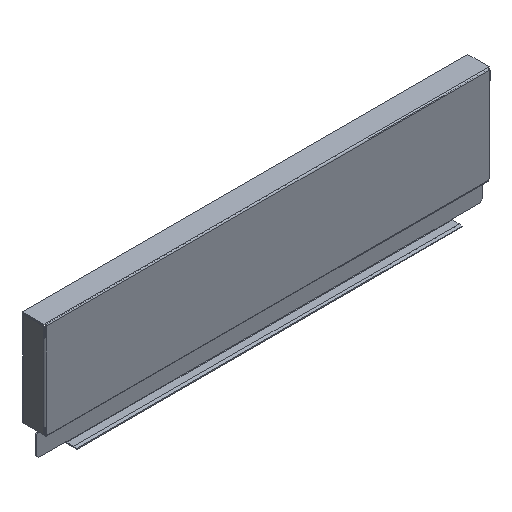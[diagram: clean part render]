
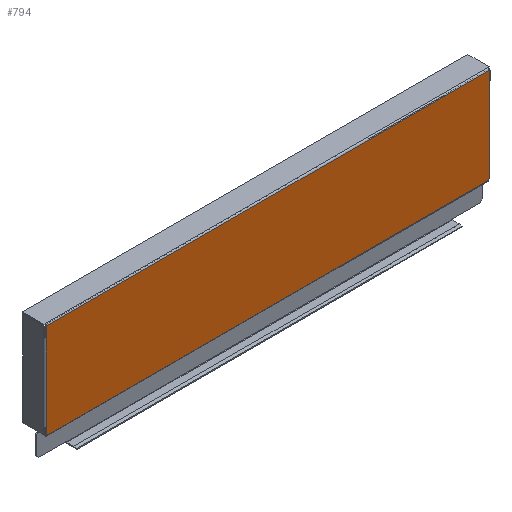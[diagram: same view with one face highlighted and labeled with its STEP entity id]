
A CAD part, isometric view. The second image highlights one B-rep face of the part: STEP entity #794.
In plain terms, the highlighted planar face has unit normal (0, -1, 0).
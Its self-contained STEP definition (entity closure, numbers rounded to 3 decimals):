
#77 = VERTEX_POINT ( 'NONE', #477 ) ;
#131 = VERTEX_POINT ( 'NONE', #466 ) ;
#140 = VERTEX_POINT ( 'NONE', #463 ) ;
#204 = DIRECTION ( 'NONE',  ( 0., 0., -1. ) ) ;
#222 = VERTEX_POINT ( 'NONE', #438 ) ;
#230 = VERTEX_POINT ( 'NONE', #434 ) ;
#239 = CARTESIAN_POINT ( 'NONE',  ( -154., -6., 101.385 ) ) ;
#244 = DIRECTION ( 'NONE',  ( 1., 0., 0. ) ) ;
#277 = VERTEX_POINT ( 'NONE', #419 ) ;
#283 = VERTEX_POINT ( 'NONE', #417 ) ;
#287 = CARTESIAN_POINT ( 'NONE',  ( -155., -6., 83. ) ) ;
#291 = VERTEX_POINT ( 'NONE', #415 ) ;
#297 = VERTEX_POINT ( 'NONE', #413 ) ;
#299 = DIRECTION ( 'NONE',  ( 0., 0., -1. ) ) ;
#313 = CARTESIAN_POINT ( 'NONE',  ( 154., -6., 101.385 ) ) ;
#326 = DIRECTION ( 'NONE',  ( 0., 0., -1. ) ) ;
#371 = CARTESIAN_POINT ( 'NONE',  ( 154., -6., 101.385 ) ) ;
#392 = CARTESIAN_POINT ( 'NONE',  ( -153.5, -6., 17. ) ) ;
#396 = DIRECTION ( 'NONE',  ( 1., 0., 0. ) ) ;
#399 = CARTESIAN_POINT ( 'NONE',  ( 153.5, -6., 17.5 ) ) ;
#413 = CARTESIAN_POINT ( 'NONE',  ( -154., -6., 17.5 ) ) ;
#415 = CARTESIAN_POINT ( 'NONE',  ( 154., -6., 82.5 ) ) ;
#417 = CARTESIAN_POINT ( 'NONE',  ( 154., -6., 83. ) ) ;
#419 = CARTESIAN_POINT ( 'NONE',  ( 153.5, -6., 17.5 ) ) ;
#431 = DIRECTION ( 'NONE',  ( 0., 0., 1. ) ) ;
#434 = CARTESIAN_POINT ( 'NONE',  ( -153.5, -6., 17.5 ) ) ;
#435 = CARTESIAN_POINT ( 'NONE',  ( 153.5, -6., 15.3 ) ) ;
#438 = CARTESIAN_POINT ( 'NONE',  ( -154., -6., 83. ) ) ;
#437 = DIRECTION ( 'NONE',  ( 1., 0., 0. ) ) ;
#440 = CARTESIAN_POINT ( 'NONE',  ( -155., -6., 17. ) ) ;
#443 = DIRECTION ( 'NONE',  ( 0., 0., -1. ) ) ;
#446 = CARTESIAN_POINT ( 'NONE',  ( -153.5, -6., 17.5 ) ) ;
#454 = DIRECTION ( 'NONE',  ( 1., 0., 0. ) ) ;
#457 = CARTESIAN_POINT ( 'NONE',  ( -155., -6., 17.5 ) ) ;
#461 = DIRECTION ( 'NONE',  ( 0., 0., -1. ) ) ;
#463 = CARTESIAN_POINT ( 'NONE',  ( -154., -6., 82.5 ) ) ;
#464 = CARTESIAN_POINT ( 'NONE',  ( -154., -6., 101.385 ) ) ;
#466 = CARTESIAN_POINT ( 'NONE',  ( 154., -6., 17.5 ) ) ;
#477 = CARTESIAN_POINT ( 'NONE',  ( 153.5, -6., 17. ) ) ;
#511 = VERTEX_POINT ( 'NONE', #392 ) ;
#672 = AXIS2_PLACEMENT_3D ( 'NONE', #1610, #1609, #1608 ) ;
#794 = ADVANCED_FACE ( 'NONE', ( #2114 ), #1611, .T. ) ;
#989 = EDGE_LOOP ( 'NONE', ( #1951, #1950, #1949, #1948, #1947, #1946, #1945, #1944, #1943, #1942 ) ) ;
#1608 = DIRECTION ( 'NONE',  ( 1., 0., 0. ) ) ;
#1609 = DIRECTION ( 'NONE',  ( 0., -1., 0. ) ) ;
#1610 = CARTESIAN_POINT ( 'NONE',  ( -155., -6., 17. ) ) ;
#1611 = PLANE ( 'NONE',  #672 ) ;
#1671 = EDGE_CURVE ( 'NONE', #140, #297, #2366, .T. ) ;
#1672 = EDGE_CURVE ( 'NONE', #297, #230, #2368, .T. ) ;
#1673 = EDGE_CURVE ( 'NONE', #230, #511, #2370, .T. ) ;
#1674 = EDGE_CURVE ( 'NONE', #511, #77, #2372, .T. ) ;
#1675 = EDGE_CURVE ( 'NONE', #77, #277, #2374, .T. ) ;
#1676 = EDGE_CURVE ( 'NONE', #277, #131, #2376, .T. ) ;
#1677 = EDGE_CURVE ( 'NONE', #291, #131, #2378, .T. ) ;
#1678 = EDGE_CURVE ( 'NONE', #283, #291, #2380, .T. ) ;
#1679 = EDGE_CURVE ( 'NONE', #222, #283, #2382, .T. ) ;
#1680 = EDGE_CURVE ( 'NONE', #222, #140, #2384, .T. ) ;
#1942 = ORIENTED_EDGE ( 'NONE', *, *, #1680, .T. ) ;
#1943 = ORIENTED_EDGE ( 'NONE', *, *, #1679, .F. ) ;
#1944 = ORIENTED_EDGE ( 'NONE', *, *, #1678, .F. ) ;
#1945 = ORIENTED_EDGE ( 'NONE', *, *, #1677, .F. ) ;
#1946 = ORIENTED_EDGE ( 'NONE', *, *, #1676, .T. ) ;
#1947 = ORIENTED_EDGE ( 'NONE', *, *, #1675, .T. ) ;
#1948 = ORIENTED_EDGE ( 'NONE', *, *, #1674, .T. ) ;
#1949 = ORIENTED_EDGE ( 'NONE', *, *, #1673, .T. ) ;
#1950 = ORIENTED_EDGE ( 'NONE', *, *, #1672, .T. ) ;
#1951 = ORIENTED_EDGE ( 'NONE', *, *, #1671, .T. ) ;
#2114 = FACE_OUTER_BOUND ( 'NONE', #989, .T. ) ;
#2366 = LINE ( 'NONE', #464, #2367 ) ;
#2367 = VECTOR ( 'NONE', #461, 1000. ) ;
#2368 = LINE ( 'NONE', #457, #2369 ) ;
#2369 = VECTOR ( 'NONE', #454, 1000. ) ;
#2370 = LINE ( 'NONE', #446, #2371 ) ;
#2371 = VECTOR ( 'NONE', #443, 1000. ) ;
#2372 = LINE ( 'NONE', #440, #2373 ) ;
#2373 = VECTOR ( 'NONE', #437, 1000. ) ;
#2374 = LINE ( 'NONE', #435, #2375 ) ;
#2375 = VECTOR ( 'NONE', #431, 1000. ) ;
#2376 = LINE ( 'NONE', #399, #2377 ) ;
#2377 = VECTOR ( 'NONE', #396, 1000. ) ;
#2378 = LINE ( 'NONE', #371, #2379 ) ;
#2379 = VECTOR ( 'NONE', #326, 1000. ) ;
#2380 = LINE ( 'NONE', #313, #2381 ) ;
#2381 = VECTOR ( 'NONE', #299, 1000. ) ;
#2382 = LINE ( 'NONE', #287, #2383 ) ;
#2383 = VECTOR ( 'NONE', #244, 1000. ) ;
#2384 = LINE ( 'NONE', #239, #2385 ) ;
#2385 = VECTOR ( 'NONE', #204, 1000. ) ;
